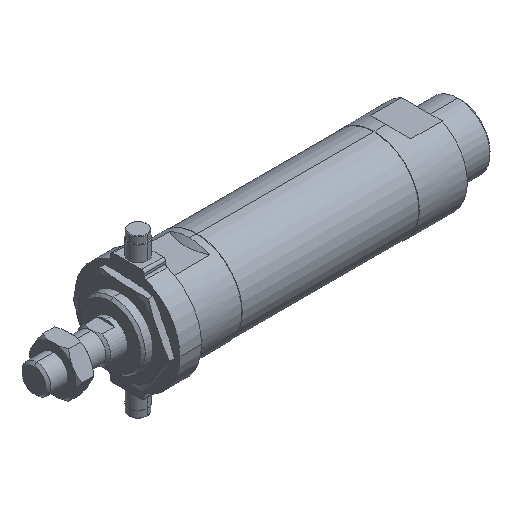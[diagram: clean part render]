
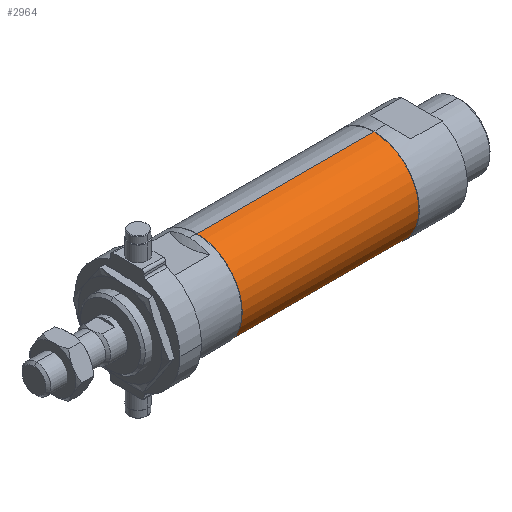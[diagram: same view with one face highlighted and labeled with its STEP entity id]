
A CAD part, isometric view. The second image highlights one B-rep face of the part: STEP entity #2964.
In plain terms, the highlighted cylindrical face has radius 18.8 mm (diameter 37.6 mm), a partial arc.
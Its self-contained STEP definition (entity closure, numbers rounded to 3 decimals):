
#117 = CARTESIAN_POINT ( 'NONE',  ( -1.784, 0., -18.8 ) ) ;
#149 = ORIENTED_EDGE ( 'NONE', *, *, #4607, .T. ) ;
#275 = CARTESIAN_POINT ( 'NONE',  ( -1.784, 0., 0. ) ) ;
#350 = DIRECTION ( 'NONE',  ( -1., 0., 0. ) ) ;
#391 = VERTEX_POINT ( 'NONE', #4189 ) ;
#773 = ORIENTED_EDGE ( 'NONE', *, *, #2870, .T. ) ;
#788 = CARTESIAN_POINT ( 'NONE',  ( 142., 0., 18.8 ) ) ;
#1106 = VERTEX_POINT ( 'NONE', #1431 ) ;
#1157 = ORIENTED_EDGE ( 'NONE', *, *, #2289, .F. ) ;
#1216 = DIRECTION ( 'NONE',  ( -1., 0., 0. ) ) ;
#1252 = AXIS2_PLACEMENT_3D ( 'NONE', #1296, #1216, #3916 ) ;
#1296 = CARTESIAN_POINT ( 'NONE',  ( 68., 0., 0. ) ) ;
#1431 = CARTESIAN_POINT ( 'NONE',  ( 68., 0., 18.8 ) ) ;
#1437 = VECTOR ( 'NONE', #2861, 1000. ) ;
#1705 = DIRECTION ( 'NONE',  ( -1., 0., 0. ) ) ;
#1784 = DIRECTION ( 'NONE',  ( -1., 0., 0. ) ) ;
#1947 = VERTEX_POINT ( 'NONE', #3611 ) ;
#2036 = LINE ( 'NONE', #3880, #2329 ) ;
#2156 = FACE_OUTER_BOUND ( 'NONE', #3759, .T. ) ;
#2166 = CIRCLE ( 'NONE', #1252, 18.8 ) ;
#2212 = CIRCLE ( 'NONE', #3817, 18.8 ) ;
#2239 = DIRECTION ( 'NONE',  ( 0., 0., 1. ) ) ;
#2289 = EDGE_CURVE ( 'NONE', #391, #1106, #2166, .T. ) ;
#2329 = VECTOR ( 'NONE', #1705, 1000. ) ;
#2394 = CARTESIAN_POINT ( 'NONE',  ( 142., 0., 0. ) ) ;
#2560 = CYLINDRICAL_SURFACE ( 'NONE', #3153, 18.8 ) ;
#2861 = DIRECTION ( 'NONE',  ( -1., 0., 0. ) ) ;
#2870 = EDGE_CURVE ( 'NONE', #3486, #1106, #2036, .T. ) ;
#2964 = ADVANCED_FACE ( 'NONE', ( #2156 ), #2560, .T. ) ;
#3073 = EDGE_CURVE ( 'NONE', #1947, #391, #4489, .T. ) ;
#3153 = AXIS2_PLACEMENT_3D ( 'NONE', #275, #1784, #2239 ) ;
#3486 = VERTEX_POINT ( 'NONE', #788 ) ;
#3611 = CARTESIAN_POINT ( 'NONE',  ( 142., 0., -18.8 ) ) ;
#3759 = EDGE_LOOP ( 'NONE', ( #3865, #149, #773, #1157 ) ) ;
#3817 = AXIS2_PLACEMENT_3D ( 'NONE', #2394, #350, #4506 ) ;
#3865 = ORIENTED_EDGE ( 'NONE', *, *, #3073, .F. ) ;
#3880 = CARTESIAN_POINT ( 'NONE',  ( -1.784, 0., 18.8 ) ) ;
#3916 = DIRECTION ( 'NONE',  ( 0., 0., 1. ) ) ;
#4189 = CARTESIAN_POINT ( 'NONE',  ( 68., 0., -18.8 ) ) ;
#4489 = LINE ( 'NONE', #117, #1437 ) ;
#4506 = DIRECTION ( 'NONE',  ( 0., 0., 1. ) ) ;
#4607 = EDGE_CURVE ( 'NONE', #1947, #3486, #2212, .T. ) ;
